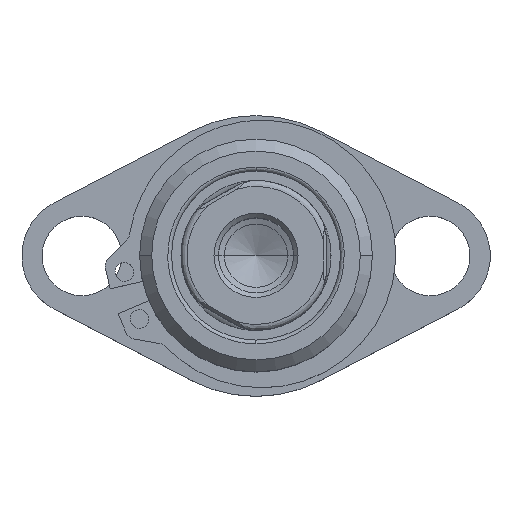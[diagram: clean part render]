
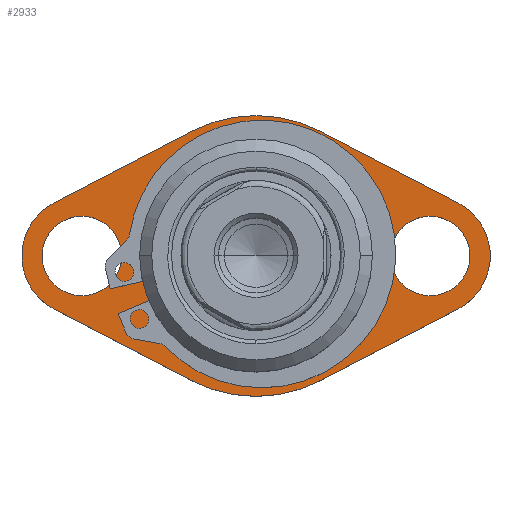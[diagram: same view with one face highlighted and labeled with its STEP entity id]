
A CAD part, top view. The second image highlights one B-rep face of the part: STEP entity #2933.
In plain terms, the highlighted planar face has unit normal (0, 0, 1) as drawn and (0, 1, 0) by its records, which use the part's own axes.
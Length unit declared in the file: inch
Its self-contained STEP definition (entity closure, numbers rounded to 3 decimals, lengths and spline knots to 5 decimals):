
#19 = VERTEX_POINT ( 'NONE', #6366 ) ;
#55 = AXIS2_PLACEMENT_3D ( 'NONE', #6373, #7590, #6420 ) ;
#97 = CARTESIAN_POINT ( 'NONE',  ( 0., 0.25, -0.775 ) ) ;
#252 = VECTOR ( 'NONE', #1192, 39.37008 ) ;
#278 = CIRCLE ( 'NONE', #7690, 0.265 ) ;
#306 = VERTEX_POINT ( 'NONE', #4929 ) ;
#339 = CIRCLE ( 'NONE', #2424, 0.935 ) ;
#374 = ORIENTED_EDGE ( 'NONE', *, *, #1397, .F. ) ;
#524 = ORIENTED_EDGE ( 'NONE', *, *, #2530, .T. ) ;
#619 = LINE ( 'NONE', #2321, #252 ) ;
#625 = EDGE_CURVE ( 'NONE', #3286, #2217, #6888, .T. ) ;
#716 = CARTESIAN_POINT ( 'NONE',  ( 0.43123, 0.25, -0.82962 ) ) ;
#744 = DIRECTION ( 'NONE',  ( -0.887, 0., -0.461 ) ) ;
#793 = CARTESIAN_POINT ( 'NONE',  ( -1.16, 0.25, 0. ) ) ;
#914 = AXIS2_PLACEMENT_3D ( 'NONE', #1961, #2479, #1908 ) ;
#1033 = DIRECTION ( 'NONE',  ( 0.887, 0., 0.461 ) ) ;
#1059 = EDGE_LOOP ( 'NONE', ( #1590, #6340 ) ) ;
#1132 = DIRECTION ( 'NONE',  ( 0., -1., 0. ) ) ;
#1192 = DIRECTION ( 'NONE',  ( -0.887, 0., 0.461 ) ) ;
#1198 = FACE_BOUND ( 'NONE', #1059, .T. ) ;
#1392 = DIRECTION ( 'NONE',  ( 0., 1., 0. ) ) ;
#1397 = EDGE_CURVE ( 'NONE', #19, #6557, #5403, .T. ) ;
#1421 = DIRECTION ( 'NONE',  ( 0., 0., 1. ) ) ;
#1525 = ORIENTED_EDGE ( 'NONE', *, *, #5419, .T. ) ;
#1568 = CIRCLE ( 'NONE', #4742, 0.935 ) ;
#1590 = ORIENTED_EDGE ( 'NONE', *, *, #1696, .T. ) ;
#1621 = EDGE_CURVE ( 'NONE', #4842, #6972, #1972, .T. ) ;
#1638 = CARTESIAN_POINT ( 'NONE',  ( -1.34448, 0.25, 0.35492 ) ) ;
#1696 = EDGE_CURVE ( 'NONE', #2217, #3286, #278, .T. ) ;
#1739 = VERTEX_POINT ( 'NONE', #4034 ) ;
#1813 = ORIENTED_EDGE ( 'NONE', *, *, #4371, .T. ) ;
#1848 = LINE ( 'NONE', #1638, #2874 ) ;
#1862 = DIRECTION ( 'NONE',  ( 0., 0., -1. ) ) ;
#1882 = CARTESIAN_POINT ( 'NONE',  ( -1.34448, 0.25, -0.35492 ) ) ;
#1908 = DIRECTION ( 'NONE',  ( 0., 0., -1. ) ) ;
#1909 = ORIENTED_EDGE ( 'NONE', *, *, #1621, .F. ) ;
#1910 = CARTESIAN_POINT ( 'NONE',  ( 0.43123, 0.25, 0.82962 ) ) ;
#1938 = EDGE_LOOP ( 'NONE', ( #3095, #524 ) ) ;
#1961 = CARTESIAN_POINT ( 'NONE',  ( 0., 0.25, 0. ) ) ;
#1972 = CIRCLE ( 'NONE', #7303, 0.4 ) ;
#2156 = CARTESIAN_POINT ( 'NONE',  ( 1.16, 0.25, 0. ) ) ;
#2217 = VERTEX_POINT ( 'NONE', #3575 ) ;
#2248 = CIRCLE ( 'NONE', #2373, 0.265 ) ;
#2272 = VERTEX_POINT ( 'NONE', #4183 ) ;
#2321 = CARTESIAN_POINT ( 'NONE',  ( -1.34448, 0.25, -0.35492 ) ) ;
#2364 = DIRECTION ( 'NONE',  ( 0., 0., -1. ) ) ;
#2372 = ORIENTED_EDGE ( 'NONE', *, *, #5969, .T. ) ;
#2373 = AXIS2_PLACEMENT_3D ( 'NONE', #5008, #2615, #3237 ) ;
#2389 = ORIENTED_EDGE ( 'NONE', *, *, #5956, .F. ) ;
#2424 = AXIS2_PLACEMENT_3D ( 'NONE', #5301, #2997, #5350 ) ;
#2479 = DIRECTION ( 'NONE',  ( 0., -1., 0. ) ) ;
#2530 = EDGE_CURVE ( 'NONE', #5469, #4257, #5576, .T. ) ;
#2559 = CARTESIAN_POINT ( 'NONE',  ( 0., 0.25, 0.775 ) ) ;
#2588 = EDGE_CURVE ( 'NONE', #5405, #306, #1568, .T. ) ;
#2593 = VECTOR ( 'NONE', #744, 39.37008 ) ;
#2615 = DIRECTION ( 'NONE',  ( 0., -1., 0. ) ) ;
#2685 = DIRECTION ( 'NONE',  ( 0., 0., -1. ) ) ;
#2873 = CARTESIAN_POINT ( 'NONE',  ( 1.34448, 0.25, -0.35492 ) ) ;
#2874 = VECTOR ( 'NONE', #1033, 39.37008 ) ;
#2933 = ADVANCED_FACE ( 'NONE', ( #1198, #5662, #2981, #5745 ), #4990, .T. ) ;
#2981 = FACE_BOUND ( 'NONE', #5461, .T. ) ;
#2997 = DIRECTION ( 'NONE',  ( 0., -1., 0. ) ) ;
#3010 = DIRECTION ( 'NONE',  ( 0., 0., -1. ) ) ;
#3058 = DIRECTION ( 'NONE',  ( 0.887, 0., -0.461 ) ) ;
#3095 = ORIENTED_EDGE ( 'NONE', *, *, #6564, .T. ) ;
#3237 = DIRECTION ( 'NONE',  ( 0., 0., -1. ) ) ;
#3286 = VERTEX_POINT ( 'NONE', #5886 ) ;
#3397 = VERTEX_POINT ( 'NONE', #5408 ) ;
#3575 = CARTESIAN_POINT ( 'NONE',  ( -1.16, 0.25, -0.265 ) ) ;
#3804 = LINE ( 'NONE', #716, #2593 ) ;
#3809 = CARTESIAN_POINT ( 'NONE',  ( 0., 0.25, -0.935 ) ) ;
#4034 = CARTESIAN_POINT ( 'NONE',  ( 1.16, 0.25, -0.265 ) ) ;
#4052 = DIRECTION ( 'NONE',  ( 0., -1., 0. ) ) ;
#4083 = DIRECTION ( 'NONE',  ( 0., -1., 0. ) ) ;
#4183 = CARTESIAN_POINT ( 'NONE',  ( 1.16, 0.25, 0.265 ) ) ;
#4257 = VERTEX_POINT ( 'NONE', #97 ) ;
#4371 = EDGE_CURVE ( 'NONE', #2272, #1739, #2248, .T. ) ;
#4443 = AXIS2_PLACEMENT_3D ( 'NONE', #5893, #5318, #2364 ) ;
#4492 = CARTESIAN_POINT ( 'NONE',  ( 1.34448, 0.25, 0.35492 ) ) ;
#4614 = ORIENTED_EDGE ( 'NONE', *, *, #2588, .F. ) ;
#4692 = ORIENTED_EDGE ( 'NONE', *, *, #5820, .T. ) ;
#4698 = CARTESIAN_POINT ( 'NONE',  ( -1.16, 0.25, 0. ) ) ;
#4742 = AXIS2_PLACEMENT_3D ( 'NONE', #7634, #1132, #1862 ) ;
#4807 = EDGE_CURVE ( 'NONE', #1739, #2272, #7685, .T. ) ;
#4808 = AXIS2_PLACEMENT_3D ( 'NONE', #6484, #6506, #7062 ) ;
#4842 = VERTEX_POINT ( 'NONE', #2873 ) ;
#4929 = CARTESIAN_POINT ( 'NONE',  ( -0.43123, 0.25, 0.82962 ) ) ;
#4930 = CARTESIAN_POINT ( 'NONE',  ( 0., 0.25, 0. ) ) ;
#4956 = AXIS2_PLACEMENT_3D ( 'NONE', #4930, #1392, #1421 ) ;
#4990 = PLANE ( 'NONE',  #4956 ) ;
#5008 = CARTESIAN_POINT ( 'NONE',  ( 1.16, 0.25, 0. ) ) ;
#5092 = DIRECTION ( 'NONE',  ( 0., 0., -1. ) ) ;
#5178 = EDGE_CURVE ( 'NONE', #7347, #5499, #6950, .T. ) ;
#5219 = DIRECTION ( 'NONE',  ( 0., 0., -1. ) ) ;
#5301 = CARTESIAN_POINT ( 'NONE',  ( 0., 0.25, 0. ) ) ;
#5318 = DIRECTION ( 'NONE',  ( 0., -1., 0. ) ) ;
#5350 = DIRECTION ( 'NONE',  ( 0., 0., -1. ) ) ;
#5403 = CIRCLE ( 'NONE', #7404, 0.4 ) ;
#5405 = VERTEX_POINT ( 'NONE', #1910 ) ;
#5408 = CARTESIAN_POINT ( 'NONE',  ( 0.43123, 0.25, -0.82962 ) ) ;
#5419 = EDGE_CURVE ( 'NONE', #5405, #6972, #5780, .T. ) ;
#5461 = EDGE_LOOP ( 'NONE', ( #7370, #1813 ) ) ;
#5469 = VERTEX_POINT ( 'NONE', #2559 ) ;
#5499 = VERTEX_POINT ( 'NONE', #3809 ) ;
#5576 = CIRCLE ( 'NONE', #4443, 0.775 ) ;
#5662 = FACE_OUTER_BOUND ( 'NONE', #6872, .T. ) ;
#5745 = FACE_BOUND ( 'NONE', #1938, .T. ) ;
#5780 = LINE ( 'NONE', #7129, #7246 ) ;
#5820 = EDGE_CURVE ( 'NONE', #19, #306, #1848, .T. ) ;
#5854 = CIRCLE ( 'NONE', #914, 0.775 ) ;
#5886 = CARTESIAN_POINT ( 'NONE',  ( -1.16, 0.25, 0.265 ) ) ;
#5893 = CARTESIAN_POINT ( 'NONE',  ( 0., 0.25, 0. ) ) ;
#5956 = EDGE_CURVE ( 'NONE', #5499, #3397, #339, .T. ) ;
#5969 = EDGE_CURVE ( 'NONE', #7347, #6557, #619, .T. ) ;
#6170 = EDGE_CURVE ( 'NONE', #4842, #3397, #3804, .T. ) ;
#6259 = DIRECTION ( 'NONE',  ( 0., -1., 0. ) ) ;
#6340 = ORIENTED_EDGE ( 'NONE', *, *, #625, .T. ) ;
#6366 = CARTESIAN_POINT ( 'NONE',  ( -1.34448, 0.25, 0.35492 ) ) ;
#6373 = CARTESIAN_POINT ( 'NONE',  ( 1.16, 0.25, 0. ) ) ;
#6420 = DIRECTION ( 'NONE',  ( 0., 0., -1. ) ) ;
#6484 = CARTESIAN_POINT ( 'NONE',  ( 0., 0.25, 0. ) ) ;
#6506 = DIRECTION ( 'NONE',  ( 0., -1., 0. ) ) ;
#6557 = VERTEX_POINT ( 'NONE', #1882 ) ;
#6564 = EDGE_CURVE ( 'NONE', #4257, #5469, #5854, .T. ) ;
#6713 = ORIENTED_EDGE ( 'NONE', *, *, #6170, .T. ) ;
#6872 = EDGE_LOOP ( 'NONE', ( #374, #4692, #4614, #1525, #1909, #6713, #2389, #7067, #2372 ) ) ;
#6888 = CIRCLE ( 'NONE', #7449, 0.265 ) ;
#6950 = CIRCLE ( 'NONE', #4808, 0.935 ) ;
#6972 = VERTEX_POINT ( 'NONE', #4492 ) ;
#7062 = DIRECTION ( 'NONE',  ( 0., 0., -1. ) ) ;
#7067 = ORIENTED_EDGE ( 'NONE', *, *, #5178, .F. ) ;
#7129 = CARTESIAN_POINT ( 'NONE',  ( 0.43123, 0.25, 0.82962 ) ) ;
#7246 = VECTOR ( 'NONE', #3058, 39.37008 ) ;
#7268 = CARTESIAN_POINT ( 'NONE',  ( -0.43123, 0.25, -0.82962 ) ) ;
#7303 = AXIS2_PLACEMENT_3D ( 'NONE', #2156, #6259, #5092 ) ;
#7347 = VERTEX_POINT ( 'NONE', #7268 ) ;
#7358 = DIRECTION ( 'NONE',  ( 0., -1., 0. ) ) ;
#7370 = ORIENTED_EDGE ( 'NONE', *, *, #4807, .T. ) ;
#7404 = AXIS2_PLACEMENT_3D ( 'NONE', #793, #7358, #2685 ) ;
#7449 = AXIS2_PLACEMENT_3D ( 'NONE', #7569, #4052, #3010 ) ;
#7569 = CARTESIAN_POINT ( 'NONE',  ( -1.16, 0.25, 0. ) ) ;
#7590 = DIRECTION ( 'NONE',  ( 0., -1., 0. ) ) ;
#7634 = CARTESIAN_POINT ( 'NONE',  ( 0., 0.25, 0. ) ) ;
#7685 = CIRCLE ( 'NONE', #55, 0.265 ) ;
#7690 = AXIS2_PLACEMENT_3D ( 'NONE', #4698, #4083, #5219 ) ;
